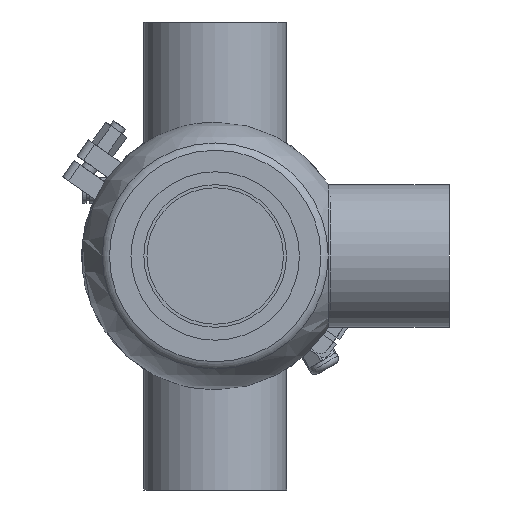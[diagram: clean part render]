
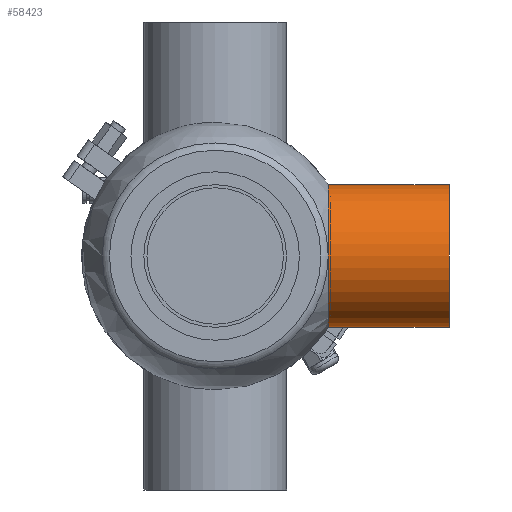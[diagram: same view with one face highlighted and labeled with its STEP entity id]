
A CAD part, front view. The second image highlights one B-rep face of the part: STEP entity #58423.
In plain terms, the highlighted cylindrical face has radius 38.1 mm (diameter 76.2 mm), a full revolution.
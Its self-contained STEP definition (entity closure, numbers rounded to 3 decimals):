
#2691 = CIRCLE ( 'NONE', #17465, 38.1 ) ;
#5262 = EDGE_CURVE ( 'NONE', #18994, #18994, #2691, .T. ) ;
#7498 = FACE_OUTER_BOUND ( 'NONE', #40881, .T. ) ;
#13596 = CIRCLE ( 'NONE', #56219, 38.1 ) ;
#17465 = AXIS2_PLACEMENT_3D ( 'NONE', #24589, #29286, #20800 ) ;
#18994 = VERTEX_POINT ( 'NONE', #21169 ) ;
#20017 = ORIENTED_EDGE ( 'NONE', *, *, #33907, .T. ) ;
#20800 = DIRECTION ( 'NONE',  ( 0., 0., 1. ) ) ;
#21169 = CARTESIAN_POINT ( 'NONE',  ( 125., 0., 38.1 ) ) ;
#22933 = AXIS2_PLACEMENT_3D ( 'NONE', #26417, #55230, #50598 ) ;
#24589 = CARTESIAN_POINT ( 'NONE',  ( 125., 0., 0. ) ) ;
#25654 = VERTEX_POINT ( 'NONE', #40239 ) ;
#26417 = CARTESIAN_POINT ( 'NONE',  ( 0., 0., 0. ) ) ;
#29286 = DIRECTION ( 'NONE',  ( -1., 0., 0. ) ) ;
#30869 = ORIENTED_EDGE ( 'NONE', *, *, #5262, .T. ) ;
#32061 = EDGE_LOOP ( 'NONE', ( #30869 ) ) ;
#33907 = EDGE_CURVE ( 'NONE', #25654, #25654, #13596, .T. ) ;
#34634 = FACE_OUTER_BOUND ( 'NONE', #32061, .T. ) ;
#36367 = CYLINDRICAL_SURFACE ( 'NONE', #22933, 38.1 ) ;
#40038 = CARTESIAN_POINT ( 'NONE',  ( 60.503, 0., 0. ) ) ;
#40239 = CARTESIAN_POINT ( 'NONE',  ( 60.503, 0., 38.1 ) ) ;
#40881 = EDGE_LOOP ( 'NONE', ( #20017 ) ) ;
#44111 = DIRECTION ( 'NONE',  ( 0., 0., 1. ) ) ;
#49938 = DIRECTION ( 'NONE',  ( 1., 0., 0. ) ) ;
#50598 = DIRECTION ( 'NONE',  ( 0., 0., 1. ) ) ;
#55230 = DIRECTION ( 'NONE',  ( -1., 0., 0. ) ) ;
#56219 = AXIS2_PLACEMENT_3D ( 'NONE', #40038, #49938, #44111 ) ;
#58423 = ADVANCED_FACE ( 'NONE', ( #7498, #34634 ), #36367, .T. ) ;
